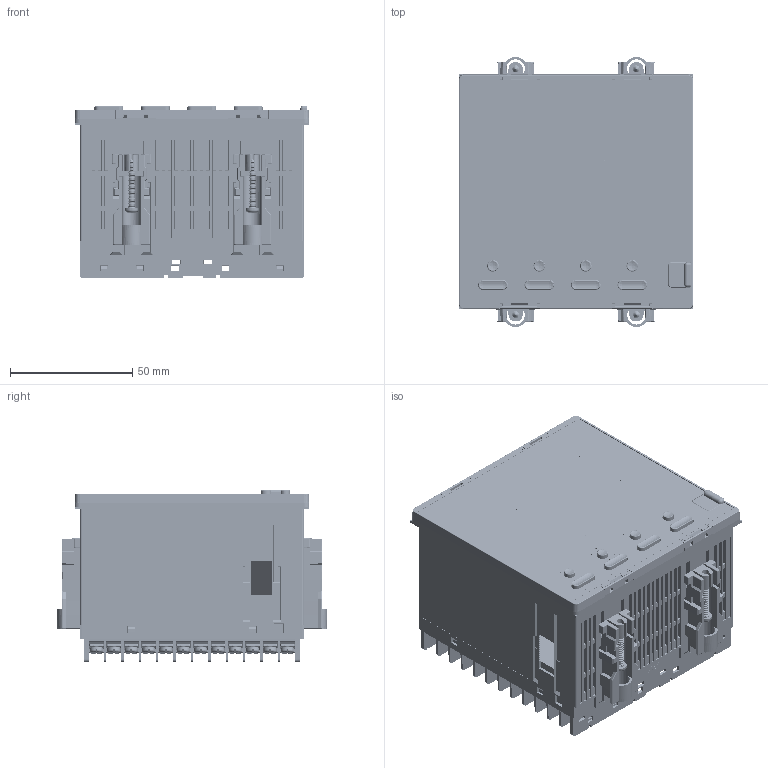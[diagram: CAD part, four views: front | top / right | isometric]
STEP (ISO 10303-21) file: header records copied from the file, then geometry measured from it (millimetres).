
FILE_DESCRIPTION (( 'STEP AP203' ), '1' );
FILE_NAME ('YIFZ900-17(0).STEP', '2019-06-05T07:08:35', ( '' ), ( '' ), 'SwSTEP 2.0', 'SolidWorks 2018', '' );
FILE_SCHEMA (( 'CONFIG_CONTROL_DESIGN' ));
Products named in the file (4): FZ900(基本設計)_WEB_デフォルト; KFB900-36_WEB; KRZ400-520_WEB; YIFZ900-17(0)
Assembly tree (6 placements, depth 2):
  YIFZ900-17(0)
    FZ900(基本設計)_WEB_デフォルト
    KFB900-36_WEB
    KRZ400-520_WEB  x4
Bounding box: 96 x 110.45 x 70.6 mm (x, y, z)
Volume: 516297.9 mm3; surface area: 83302.4 mm2
Topology: 10 solids, 20 shells, 15111 faces, 41239 edges, 26698 vertices
Faces by surface type: plane 9570, bspline 3137, cylinder 1666, cone 364, sphere 228, torus 146
Entity records: 484970 total; most frequent: CARTESIAN_POINT 164726, ORIENTED_EDGE 73032, DIRECTION 54619, EDGE_CURVE 36516, LINE 27329, VECTOR 27329, VERTEX_POINT 23851, EDGE_LOOP 14051
